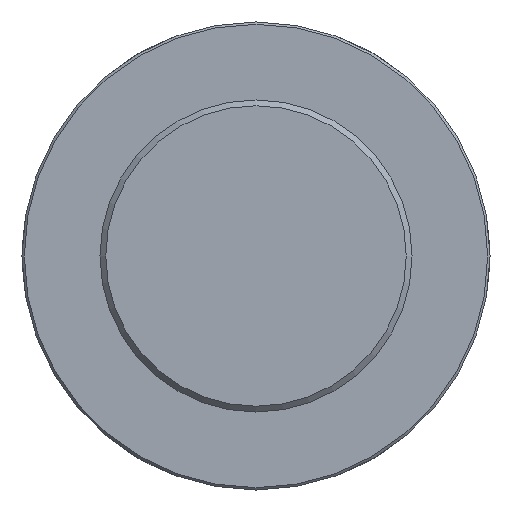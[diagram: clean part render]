
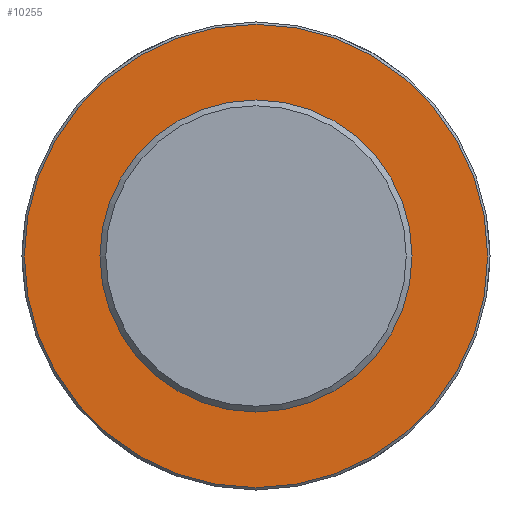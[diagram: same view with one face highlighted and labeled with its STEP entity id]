
A CAD part, front view. The second image highlights one B-rep face of the part: STEP entity #10255.
In plain terms, the highlighted planar face has unit normal (0, -1, 0) as drawn and (0, 1, 0) by its records, which use the part's own axes.
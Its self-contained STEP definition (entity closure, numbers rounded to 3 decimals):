
#73=CIRCLE('',#10606,200.5);
#388=PLANE('',#10609);
#934=FACE_OUTER_BOUND('',#1551,.T.);
#1551=EDGE_LOOP('',(#9389));
#4911=VERTEX_POINT('',#18935);
#6407=EDGE_CURVE('',#4911,#4911,#73,.T.);
#9389=ORIENTED_EDGE('',*,*,#6407,.F.);
#10255=ADVANCED_FACE('',(#934),#388,.T.);
#10606=AXIS2_PLACEMENT_3D('',#18936,#12046,#12047);
#10609=AXIS2_PLACEMENT_3D('',#19174,#12052,#12053);
#12046=DIRECTION('center_axis',(0.,-1.,0.));
#12047=DIRECTION('ref_axis',(1.,0.,0.));
#12052=DIRECTION('center_axis',(0.,1.,0.));
#12053=DIRECTION('ref_axis',(0.,0.,1.));
#18935=CARTESIAN_POINT('',(-200.5,185.,0.));
#18936=CARTESIAN_POINT('Origin',(0.,185.,0.));
#19174=CARTESIAN_POINT('Origin',(0.,185.,0.));
